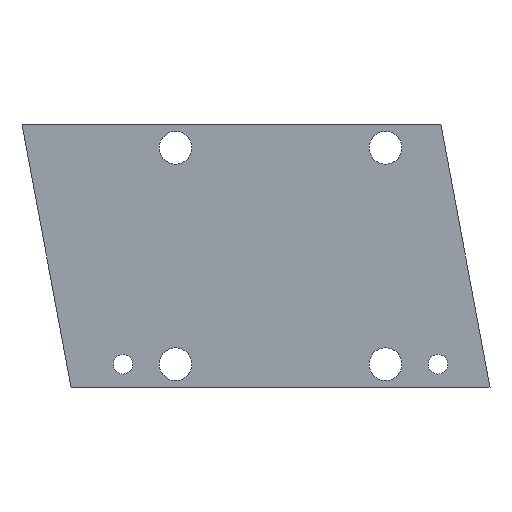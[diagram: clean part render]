
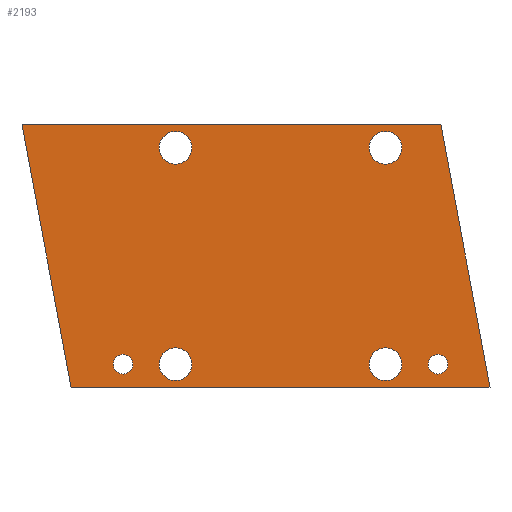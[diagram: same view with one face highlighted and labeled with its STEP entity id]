
A CAD part, front view. The second image highlights one B-rep face of the part: STEP entity #2193.
In plain terms, the highlighted planar face has unit normal (0, -1, 0).
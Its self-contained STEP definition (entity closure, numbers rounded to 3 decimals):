
#46 = DIRECTION ( 'NONE',  ( 0., 0., 1. ) ) ;
#73 = EDGE_LOOP ( 'NONE', ( #1681, #1449, #1619, #1136 ) ) ;
#108 = VERTEX_POINT ( 'NONE', #358 ) ;
#122 = CARTESIAN_POINT ( 'NONE',  ( -81.388, 0.236, 1.572 ) ) ;
#147 = CIRCLE ( 'NONE', #1945, 2.5 ) ;
#151 = EDGE_LOOP ( 'NONE', ( #482, #2084 ) ) ;
#173 = CARTESIAN_POINT ( 'NONE',  ( -121.388, 0.236, 1.572 ) ) ;
#208 = AXIS2_PLACEMENT_3D ( 'NONE', #1332, #2272, #833 ) ;
#213 = FACE_BOUND ( 'NONE', #815, .T. ) ;
#226 = DIRECTION ( 'NONE',  ( 0., 1., 0. ) ) ;
#247 = AXIS2_PLACEMENT_3D ( 'NONE', #1575, #905, #1338 ) ;
#248 = CARTESIAN_POINT ( 'NONE',  ( -81.388, 0.236, -0.928 ) ) ;
#302 = CARTESIAN_POINT ( 'NONE',  ( -81.388, 0.236, 34.572 ) ) ;
#338 = DIRECTION ( 'NONE',  ( 0., 1., 0. ) ) ;
#356 = CIRCLE ( 'NONE', #2153, 2.5 ) ;
#358 = CARTESIAN_POINT ( 'NONE',  ( -129.313, 0.236, -1.928 ) ) ;
#384 = CARTESIAN_POINT ( 'NONE',  ( -53.671, 0.236, 15.803 ) ) ;
#387 = LINE ( 'NONE', #2863, #411 ) ;
#411 = VECTOR ( 'NONE', #927, 1000. ) ;
#436 = DIRECTION ( 'NONE',  ( 0., -1., 0. ) ) ;
#448 = AXIS2_PLACEMENT_3D ( 'NONE', #302, #807, #2279 ) ;
#451 = FACE_OUTER_BOUND ( 'NONE', #73, .T. ) ;
#472 = CARTESIAN_POINT ( 'NONE',  ( -121.388, 0.236, 3.072 ) ) ;
#474 = EDGE_CURVE ( 'NONE', #2341, #2055, #1647, .T. ) ;
#482 = ORIENTED_EDGE ( 'NONE', *, *, #3072, .T. ) ;
#519 = AXIS2_PLACEMENT_3D ( 'NONE', #2600, #2895, #1907 ) ;
#557 = EDGE_CURVE ( 'NONE', #870, #1861, #147, .T. ) ;
#612 = ORIENTED_EDGE ( 'NONE', *, *, #895, .T. ) ;
#614 = VECTOR ( 'NONE', #3055, 1000. ) ;
#673 = CARTESIAN_POINT ( 'NONE',  ( -113.388, 0.236, -0.928 ) ) ;
#683 = CARTESIAN_POINT ( 'NONE',  ( -113.388, 0.236, 34.572 ) ) ;
#687 = EDGE_CURVE ( 'NONE', #108, #1345, #3067, .T. ) ;
#713 = CARTESIAN_POINT ( 'NONE',  ( -121.388, 0.236, 0.072 ) ) ;
#719 = AXIS2_PLACEMENT_3D ( 'NONE', #2007, #2220, #46 ) ;
#733 = EDGE_CURVE ( 'NONE', #2254, #1917, #2424, .T. ) ;
#786 = CARTESIAN_POINT ( 'NONE',  ( -81.388, 0.236, 32.072 ) ) ;
#807 = DIRECTION ( 'NONE',  ( 0., 1., 0. ) ) ;
#810 = CIRCLE ( 'NONE', #1986, 2.5 ) ;
#815 = EDGE_LOOP ( 'NONE', ( #1689, #2025 ) ) ;
#833 = DIRECTION ( 'NONE',  ( 0., 0., 1. ) ) ;
#869 = FACE_BOUND ( 'NONE', #1177, .T. ) ;
#870 = VERTEX_POINT ( 'NONE', #248 ) ;
#874 = CIRCLE ( 'NONE', #2238, 1.5 ) ;
#889 = VERTEX_POINT ( 'NONE', #2468 ) ;
#895 = EDGE_CURVE ( 'NONE', #1675, #3007, #3101, .T. ) ;
#905 = DIRECTION ( 'NONE',  ( 0., 1., 0. ) ) ;
#927 = DIRECTION ( 'NONE',  ( -0.184, 0., 0.983 ) ) ;
#961 = DIRECTION ( 'NONE',  ( 0., 0., 1. ) ) ;
#1136 = ORIENTED_EDGE ( 'NONE', *, *, #2941, .F. ) ;
#1142 = CIRCLE ( 'NONE', #1952, 2.5 ) ;
#1151 = CIRCLE ( 'NONE', #519, 2.5 ) ;
#1162 = DIRECTION ( 'NONE',  ( 0., 0., 1. ) ) ;
#1177 = EDGE_LOOP ( 'NONE', ( #2292, #1633 ) ) ;
#1189 = LINE ( 'NONE', #3076, #614 ) ;
#1200 = CARTESIAN_POINT ( 'NONE',  ( -81.388, 0.236, 1.572 ) ) ;
#1206 = FACE_BOUND ( 'NONE', #2388, .T. ) ;
#1233 = CARTESIAN_POINT ( 'NONE',  ( -81.388, 0.236, 4.072 ) ) ;
#1293 = CARTESIAN_POINT ( 'NONE',  ( -73.393, 0.236, 3.072 ) ) ;
#1326 = AXIS2_PLACEMENT_3D ( 'NONE', #384, #436, #1429 ) ;
#1332 = CARTESIAN_POINT ( 'NONE',  ( -113.388, 0.236, 1.572 ) ) ;
#1338 = DIRECTION ( 'NONE',  ( 0., 0., 1. ) ) ;
#1345 = VERTEX_POINT ( 'NONE', #1623 ) ;
#1355 = DIRECTION ( 'NONE',  ( 0., 1., 0. ) ) ;
#1382 = ORIENTED_EDGE ( 'NONE', *, *, #1963, .T. ) ;
#1424 = DIRECTION ( 'NONE',  ( 0., 0., 1. ) ) ;
#1426 = CARTESIAN_POINT ( 'NONE',  ( -113.388, 0.236, 37.072 ) ) ;
#1429 = DIRECTION ( 'NONE',  ( 0., 0., -1. ) ) ;
#1449 = ORIENTED_EDGE ( 'NONE', *, *, #1803, .F. ) ;
#1515 = CARTESIAN_POINT ( 'NONE',  ( -113.388, 0.236, 34.572 ) ) ;
#1530 = VERTEX_POINT ( 'NONE', #1949 ) ;
#1575 = CARTESIAN_POINT ( 'NONE',  ( -73.393, 0.236, 1.572 ) ) ;
#1585 = CARTESIAN_POINT ( 'NONE',  ( -129.313, 0.236, -1.928 ) ) ;
#1589 = CIRCLE ( 'NONE', #2401, 2.5 ) ;
#1597 = ORIENTED_EDGE ( 'NONE', *, *, #2970, .T. ) ;
#1619 = ORIENTED_EDGE ( 'NONE', *, *, #687, .F. ) ;
#1623 = CARTESIAN_POINT ( 'NONE',  ( -136.791, 0.236, 38.072 ) ) ;
#1633 = ORIENTED_EDGE ( 'NONE', *, *, #2453, .T. ) ;
#1647 = CIRCLE ( 'NONE', #719, 1.5 ) ;
#1664 = DIRECTION ( 'NONE',  ( 0., 1., 0. ) ) ;
#1665 = EDGE_CURVE ( 'NONE', #1917, #2254, #874, .T. ) ;
#1675 = VERTEX_POINT ( 'NONE', #1801 ) ;
#1681 = ORIENTED_EDGE ( 'NONE', *, *, #1750, .T. ) ;
#1689 = ORIENTED_EDGE ( 'NONE', *, *, #1665, .T. ) ;
#1750 = EDGE_CURVE ( 'NONE', #1530, #2876, #387, .T. ) ;
#1801 = CARTESIAN_POINT ( 'NONE',  ( -113.388, 0.236, 4.072 ) ) ;
#1803 = EDGE_CURVE ( 'NONE', #1345, #2876, #1189, .T. ) ;
#1819 = EDGE_CURVE ( 'NONE', #1989, #2580, #1589, .T. ) ;
#1826 = CIRCLE ( 'NONE', #448, 2.5 ) ;
#1861 = VERTEX_POINT ( 'NONE', #1233 ) ;
#1888 = CARTESIAN_POINT ( 'NONE',  ( -136.791, 0.236, 38.072 ) ) ;
#1907 = DIRECTION ( 'NONE',  ( 0., 0., 1. ) ) ;
#1917 = VERTEX_POINT ( 'NONE', #472 ) ;
#1945 = AXIS2_PLACEMENT_3D ( 'NONE', #122, #1355, #2049 ) ;
#1949 = CARTESIAN_POINT ( 'NONE',  ( -65.463, 0.236, -1.928 ) ) ;
#1952 = AXIS2_PLACEMENT_3D ( 'NONE', #1200, #2616, #1162 ) ;
#1963 = EDGE_CURVE ( 'NONE', #2580, #1989, #810, .T. ) ;
#1986 = AXIS2_PLACEMENT_3D ( 'NONE', #1515, #2182, #2474 ) ;
#1989 = VERTEX_POINT ( 'NONE', #2742 ) ;
#2007 = CARTESIAN_POINT ( 'NONE',  ( -73.393, 0.236, 1.572 ) ) ;
#2017 = EDGE_CURVE ( 'NONE', #889, #2685, #1826, .T. ) ;
#2025 = ORIENTED_EDGE ( 'NONE', *, *, #733, .T. ) ;
#2049 = DIRECTION ( 'NONE',  ( 0., 0., 1. ) ) ;
#2055 = VERTEX_POINT ( 'NONE', #2787 ) ;
#2062 = LINE ( 'NONE', #1585, #2104 ) ;
#2066 = EDGE_LOOP ( 'NONE', ( #1382, #2501 ) ) ;
#2084 = ORIENTED_EDGE ( 'NONE', *, *, #557, .T. ) ;
#2099 = DIRECTION ( 'NONE',  ( 0., 1., 0. ) ) ;
#2104 = VECTOR ( 'NONE', #2551, 1000. ) ;
#2153 = AXIS2_PLACEMENT_3D ( 'NONE', #2771, #2099, #2535 ) ;
#2157 = VECTOR ( 'NONE', #2634, 1000. ) ;
#2182 = DIRECTION ( 'NONE',  ( 0., 1., 0. ) ) ;
#2193 = ADVANCED_FACE ( 'NONE', ( #869, #451, #213, #2608, #2839, #3106, #1206 ), #2622, .T. ) ;
#2220 = DIRECTION ( 'NONE',  ( 0., 1., 0. ) ) ;
#2238 = AXIS2_PLACEMENT_3D ( 'NONE', #2984, #338, #2997 ) ;
#2254 = VERTEX_POINT ( 'NONE', #713 ) ;
#2269 = EDGE_LOOP ( 'NONE', ( #2571, #1597 ) ) ;
#2272 = DIRECTION ( 'NONE',  ( 0., 1., 0. ) ) ;
#2279 = DIRECTION ( 'NONE',  ( 0., 0., 1. ) ) ;
#2292 = ORIENTED_EDGE ( 'NONE', *, *, #474, .T. ) ;
#2334 = CARTESIAN_POINT ( 'NONE',  ( -72.941, 0.236, 38.072 ) ) ;
#2341 = VERTEX_POINT ( 'NONE', #1293 ) ;
#2388 = EDGE_LOOP ( 'NONE', ( #612, #2710 ) ) ;
#2401 = AXIS2_PLACEMENT_3D ( 'NONE', #683, #1664, #961 ) ;
#2403 = EDGE_CURVE ( 'NONE', #3007, #1675, #356, .T. ) ;
#2424 = CIRCLE ( 'NONE', #2519, 1.5 ) ;
#2453 = EDGE_CURVE ( 'NONE', #2055, #2341, #2791, .T. ) ;
#2468 = CARTESIAN_POINT ( 'NONE',  ( -81.388, 0.236, 37.072 ) ) ;
#2474 = DIRECTION ( 'NONE',  ( 0., 0., 1. ) ) ;
#2501 = ORIENTED_EDGE ( 'NONE', *, *, #1819, .T. ) ;
#2519 = AXIS2_PLACEMENT_3D ( 'NONE', #173, #226, #1424 ) ;
#2535 = DIRECTION ( 'NONE',  ( 0., 0., 1. ) ) ;
#2551 = DIRECTION ( 'NONE',  ( -1., 0., 0. ) ) ;
#2571 = ORIENTED_EDGE ( 'NONE', *, *, #2017, .T. ) ;
#2580 = VERTEX_POINT ( 'NONE', #1426 ) ;
#2600 = CARTESIAN_POINT ( 'NONE',  ( -81.388, 0.236, 34.572 ) ) ;
#2608 = FACE_BOUND ( 'NONE', #151, .T. ) ;
#2616 = DIRECTION ( 'NONE',  ( 0., 1., 0. ) ) ;
#2622 = PLANE ( 'NONE',  #1326 ) ;
#2634 = DIRECTION ( 'NONE',  ( -0.184, 0., 0.983 ) ) ;
#2685 = VERTEX_POINT ( 'NONE', #786 ) ;
#2710 = ORIENTED_EDGE ( 'NONE', *, *, #2403, .T. ) ;
#2742 = CARTESIAN_POINT ( 'NONE',  ( -113.388, 0.236, 32.072 ) ) ;
#2771 = CARTESIAN_POINT ( 'NONE',  ( -113.388, 0.236, 1.572 ) ) ;
#2787 = CARTESIAN_POINT ( 'NONE',  ( -73.393, 0.236, 0.072 ) ) ;
#2791 = CIRCLE ( 'NONE', #247, 1.5 ) ;
#2839 = FACE_BOUND ( 'NONE', #2066, .T. ) ;
#2863 = CARTESIAN_POINT ( 'NONE',  ( -65.463, 0.236, -1.928 ) ) ;
#2876 = VERTEX_POINT ( 'NONE', #2334 ) ;
#2895 = DIRECTION ( 'NONE',  ( 0., 1., 0. ) ) ;
#2941 = EDGE_CURVE ( 'NONE', #1530, #108, #2062, .T. ) ;
#2970 = EDGE_CURVE ( 'NONE', #2685, #889, #1151, .T. ) ;
#2984 = CARTESIAN_POINT ( 'NONE',  ( -121.388, 0.236, 1.572 ) ) ;
#2997 = DIRECTION ( 'NONE',  ( 0., 0., 1. ) ) ;
#3007 = VERTEX_POINT ( 'NONE', #673 ) ;
#3055 = DIRECTION ( 'NONE',  ( 1., 0., 0. ) ) ;
#3067 = LINE ( 'NONE', #1888, #2157 ) ;
#3072 = EDGE_CURVE ( 'NONE', #1861, #870, #1142, .T. ) ;
#3076 = CARTESIAN_POINT ( 'NONE',  ( -8.941, 0.236, 38.072 ) ) ;
#3101 = CIRCLE ( 'NONE', #208, 2.5 ) ;
#3106 = FACE_BOUND ( 'NONE', #2269, .T. ) ;
